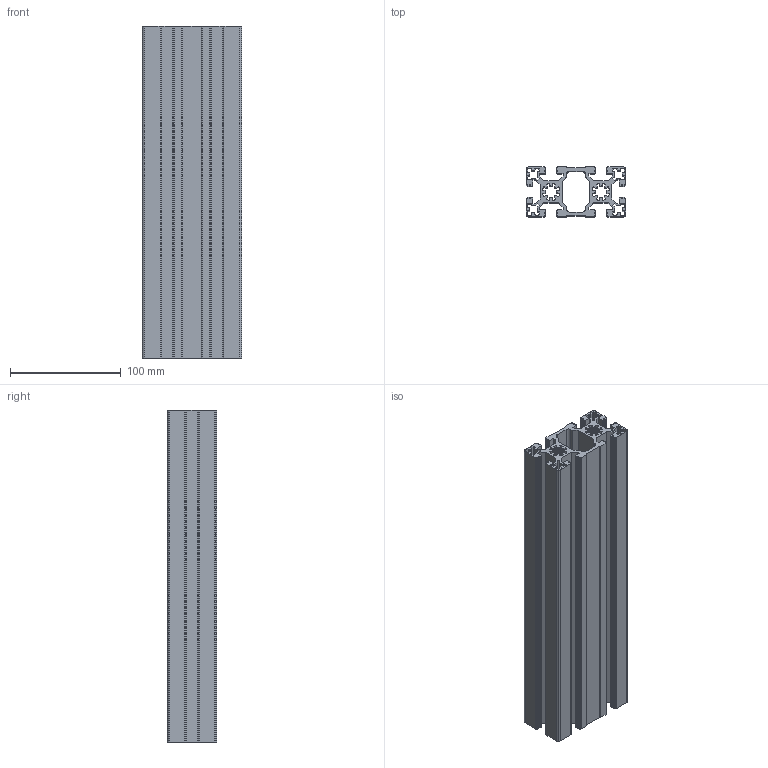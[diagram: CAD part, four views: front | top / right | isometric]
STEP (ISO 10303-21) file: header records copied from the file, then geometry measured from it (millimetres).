
FILE_DESCRIPTION (( 'STEP AP203' ), '1' );
FILE_NAME ('33-CE-4590F-10.STEP', '2015-07-07T03:40:31', ( '' ), ( '' ), 'SwSTEP 2.0', 'SolidWorks 2013', '' );
FILE_SCHEMA (( 'CONFIG_CONTROL_DESIGN' ));
Length unit declared in the file: millimetre
Products named in the file (1): 33-CE-4590F-10
Bounding box: 90 x 45 x 300 mm (x, y, z)
Volume: 438214.9 mm3; surface area: 306913.1 mm2
Topology: 1 solids, 1 shells, 560 faces, 1674 edges, 1116 vertices
Faces by surface type: cylinder 290, plane 270
Entity records: 19123 total; most frequent: DIRECTION 3376, CARTESIAN_POINT 3351, ORIENTED_EDGE 3348, EDGE_CURVE 1674, AXIS2_PLACEMENT_3D 1141, VERTEX_POINT 1116, LINE 1094, VECTOR 1094
